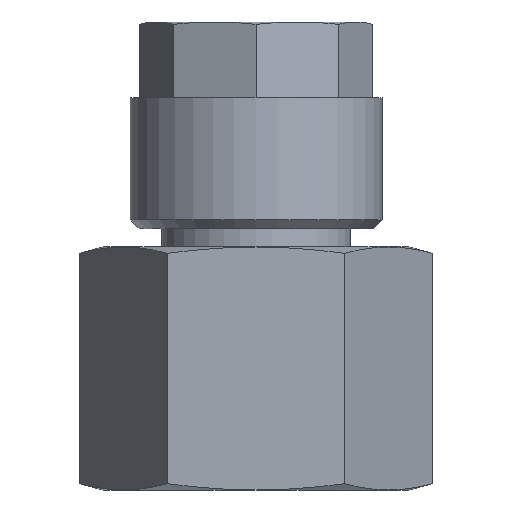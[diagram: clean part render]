
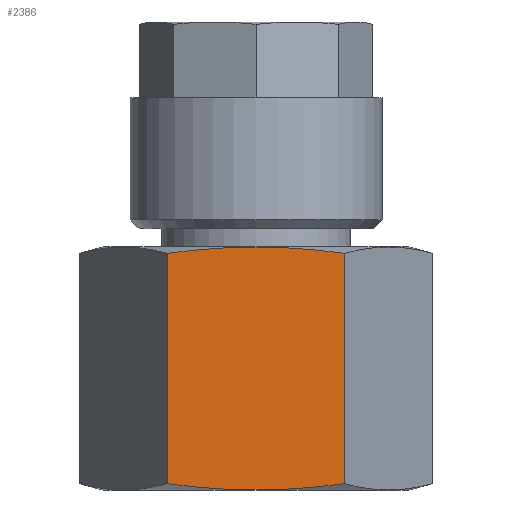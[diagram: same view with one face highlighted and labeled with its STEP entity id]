
A CAD part, front view. The second image highlights one B-rep face of the part: STEP entity #2386.
In plain terms, the highlighted planar face has unit normal (0, -1, 0) as drawn and (0, 0, 1) by its records, which use the part's own axes.
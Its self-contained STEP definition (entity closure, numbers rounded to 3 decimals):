
#1126=VECTOR('',#2075,1.);
#1127=VECTOR('',#2088,1.);
#1148=LINE('',#2594,#1126);
#1149=LINE('',#2603,#1127);
#1177=HYPERBOLA('',#2273,2.278,8.5);
#1178=HYPERBOLA('',#2275,2.278,8.5);
#1179=HYPERBOLA('',#2276,2.278,8.5);
#1180=HYPERBOLA('',#2277,2.278,8.5);
#1210=PLANE('',#2274);
#1379=ORIENTED_EDGE('',*,*,#1640,.T.);
#1380=ORIENTED_EDGE('',*,*,#1641,.T.);
#1381=ORIENTED_EDGE('',*,*,#1642,.T.);
#1382=ORIENTED_EDGE('',*,*,#1643,.T.);
#1383=ORIENTED_EDGE('',*,*,#1637,.F.);
#1384=ORIENTED_EDGE('',*,*,#1639,.T.);
#1534=VERTEX_POINT('',#2564);
#1543=VERTEX_POINT('',#2591);
#1544=VERTEX_POINT('',#2593);
#1545=VERTEX_POINT('',#2600);
#1546=VERTEX_POINT('',#2602);
#1547=VERTEX_POINT('',#2604);
#1637=EDGE_CURVE('',#1543,#1544,#1148,.T.);
#1639=EDGE_CURVE('',#1543,#1534,#1177,.T.);
#1640=EDGE_CURVE('',#1534,#1545,#1178,.T.);
#1641=EDGE_CURVE('',#1545,#1546,#1149,.T.);
#1642=EDGE_CURVE('',#1546,#1547,#1179,.T.);
#1643=EDGE_CURVE('',#1547,#1544,#1180,.T.);
#1733=EDGE_LOOP('',(#1379,#1380,#1381,#1382,#1383,#1384));
#1821=FACE_BOUND('',#1733,.T.);
#2075=DIRECTION('',(0.,12.795,0.));
#2082=DIRECTION('',(0.,0.,-1.));
#2083=DIRECTION('',(0.,1.,0.));
#2084=DIRECTION('',(0.,0.,1.));
#2085=DIRECTION('',(0.,-1.,0.));
#2086=DIRECTION('',(0.,0.,-1.));
#2087=DIRECTION('',(0.,1.,0.));
#2088=DIRECTION('',(0.,12.795,0.));
#2089=DIRECTION('',(0.,0.,-1.));
#2090=DIRECTION('',(0.,-1.,0.));
#2091=DIRECTION('',(0.,0.,-1.));
#2092=DIRECTION('',(0.,-1.,0.));
#2273=AXIS2_PLACEMENT_3D('',#2598,#2082,#2083);
#2274=AXIS2_PLACEMENT_3D('',#2599,#2084,#2085);
#2275=AXIS2_PLACEMENT_3D('',#2601,#2086,#2087);
#2276=AXIS2_PLACEMENT_3D('',#2605,#2089,#2090);
#2277=AXIS2_PLACEMENT_3D('',#2606,#2091,#2092);
#2386=ADVANCED_FACE('',(#1821),#1210,.T.);
#2564=CARTESIAN_POINT('',(23.988,15.997,8.5));
#2591=CARTESIAN_POINT('',(19.081,16.35,8.5));
#2593=CARTESIAN_POINT('',(19.081,29.145,8.5));
#2594=CARTESIAN_POINT('',(19.081,16.35,8.5));
#2598=CARTESIAN_POINT('',(23.988,13.72,8.5));
#2599=CARTESIAN_POINT('',(28.896,16.35,8.5));
#2600=CARTESIAN_POINT('',(28.896,16.35,8.5));
#2601=CARTESIAN_POINT('',(23.988,13.72,8.5));
#2602=CARTESIAN_POINT('',(28.896,29.145,8.5));
#2603=CARTESIAN_POINT('',(28.896,16.35,8.5));
#2604=CARTESIAN_POINT('',(23.988,29.497,8.5));
#2605=CARTESIAN_POINT('',(23.988,31.775,8.5));
#2606=CARTESIAN_POINT('',(23.988,31.775,8.5));
